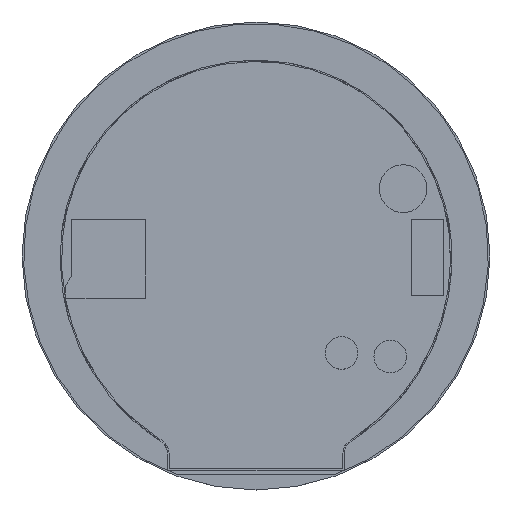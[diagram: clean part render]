
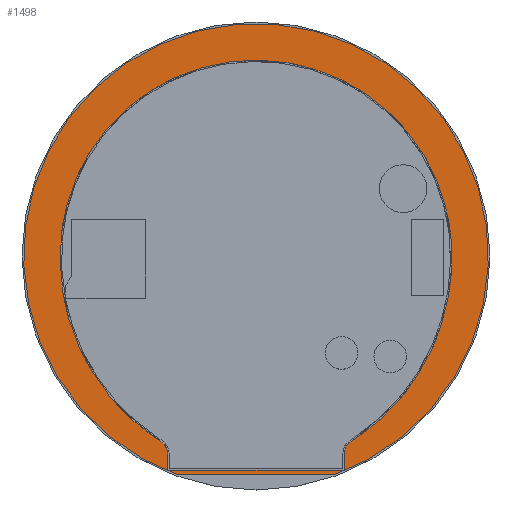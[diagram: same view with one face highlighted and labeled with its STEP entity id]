
A CAD part, top view. The second image highlights one B-rep face of the part: STEP entity #1498.
In plain terms, the highlighted planar face has unit normal (0, 0, 1).
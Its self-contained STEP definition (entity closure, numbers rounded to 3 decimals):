
#545=CARTESIAN_POINT('',(0.,0.,-4.75));
#546=DIRECTION('',(0.,0.,-1.));
#547=DIRECTION('',(-1.,0.,0.));
#548=AXIS2_PLACEMENT_3D('',#545,#546,#547);
#554=CARTESIAN_POINT('',(0.,0.,-4.75));
#555=DIRECTION('',(0.,0.,-1.));
#556=DIRECTION('',(-0.335,-0.942,0.));
#557=AXIS2_PLACEMENT_3D('',#554,#555,#556);
#563=DIRECTION('',(1.,0.,0.));
#564=VECTOR('',#563,29.007);
#565=CARTESIAN_POINT('',(-14.5,-40.843,-4.75));
#566=LINE('',#565,#564);
#660=CARTESIAN_POINT('',(0.,0.,-4.75));
#661=DIRECTION('',(0.,0.,-1.));
#662=DIRECTION('',(1.,0.,0.));
#663=AXIS2_PLACEMENT_3D('',#660,#661,#662);
#927=CARTESIAN_POINT('',(-14.5,-40.843,-4.75));
#928=CARTESIAN_POINT('',(14.507,-40.84,-4.75));
#929=VERTEX_POINT('',#927);
#930=VERTEX_POINT('',#928);
#931=CARTESIAN_POINT('',(-36.07,0.,-4.75));
#932=CARTESIAN_POINT('',(36.07,0.,-4.75));
#933=VERTEX_POINT('',#931);
#934=VERTEX_POINT('',#932);
#1482=CARTESIAN_POINT('',(0.,0.,-4.75));
#1483=DIRECTION('',(0.,0.,-1.));
#1484=DIRECTION('',(-1.,0.,0.));
#1485=AXIS2_PLACEMENT_3D('',#1482,#1483,#1484);
#1486=PLANE('',#1485);
#1488=ORIENTED_EDGE('',*,*,#1487,.F.);
#1490=ORIENTED_EDGE('',*,*,#1489,.T.);
#1491=EDGE_LOOP('',(#1488,#1490));
#1492=FACE_OUTER_BOUND('',#1491,.F.);
#1493=ORIENTED_EDGE('',*,*,#1472,.F.);
#1495=ORIENTED_EDGE('',*,*,#1494,.F.);
#1496=EDGE_LOOP('',(#1493,#1495));
#1497=FACE_BOUND('',#1496,.F.);
#549=CIRCLE('',#548,36.07);
#558=CIRCLE('',#557,43.34);
#664=CIRCLE('',#663,36.07);
#1472=EDGE_CURVE('',#933,#934,#549,.T.);
#1487=EDGE_CURVE('',#929,#930,#566,.T.);
#1489=EDGE_CURVE('',#929,#930,#558,.T.);
#1494=EDGE_CURVE('',#934,#933,#664,.T.);
#1498=ADVANCED_FACE('',(#1492,#1497),#1486,.F.);
